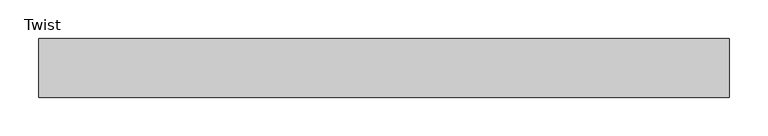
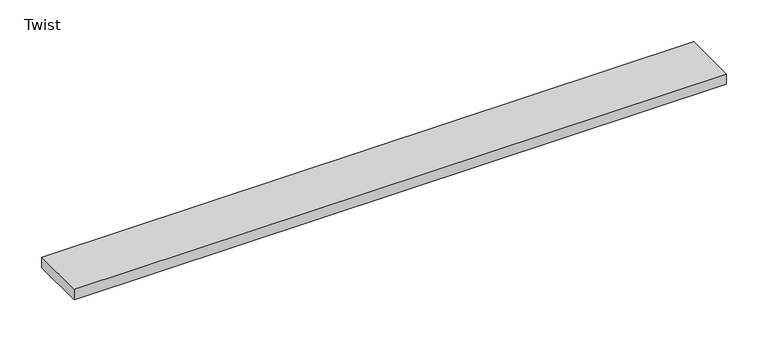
"""IFC4 building model written with IfcOpenShell, lengths in millimetres: sanitary terminal geometry, ZZZ_do not use_PF_UN_grating for ShowerDrain E and M series_ACO : Twist."""

from ifc_helpers import new_model, si_unit, frame, origin, place, context, project, spatial, polyline, outline, extrude, source, transform, mapped, element, save


def twist_b93bbfc6(model_context):
    return source(origin(), model_context, "Body", "SweptSolid", [
        extrude(outline(polyline([(448.0, 38.5), (448.0, -38.5), (-448.0, -38.5), (-448.0, 38.5), (448.0, 38.5)])), frame((0.0, 0.0, -15.0), z_axis=(0.0, 0.0, 1.0), x_axis=(1.0, 0.0, 0.0)), (0.0, 0.0, 1.0), 15.0),
    ])


if __name__ == "__main__":
    model = new_model("IFC4")
    model_context = context("Model", 3, world=origin())
    ifc_project = project(units=[si_unit("LENGTHUNIT", "METRE", prefix="MILLI")], contexts=[model_context])
    site = spatial("IfcSite", under=ifc_project)
    building = spatial("IfcBuilding", under=site)
    placement = place(None, origin())
    twist_shape = twist_b93bbfc6(model_context)
    element("IfcSanitaryTerminal", 1, ObjectType="ZZZ_do not use_PF_UN_grating for ShowerDrain E and M series_ACO : Twist", at=placement, inside=building, context=model_context, shape_type="MappedRepresentation", body=[
        mapped(twist_shape, transform((0.0, 0.0, 0.0), x_axis=(1.0, 0.0, 0.0), y_axis=(0.0, 1.0, 0.0), z_axis=(0.0, 0.0, 1.0))),
    ])
    save(model, "model.ifc")
